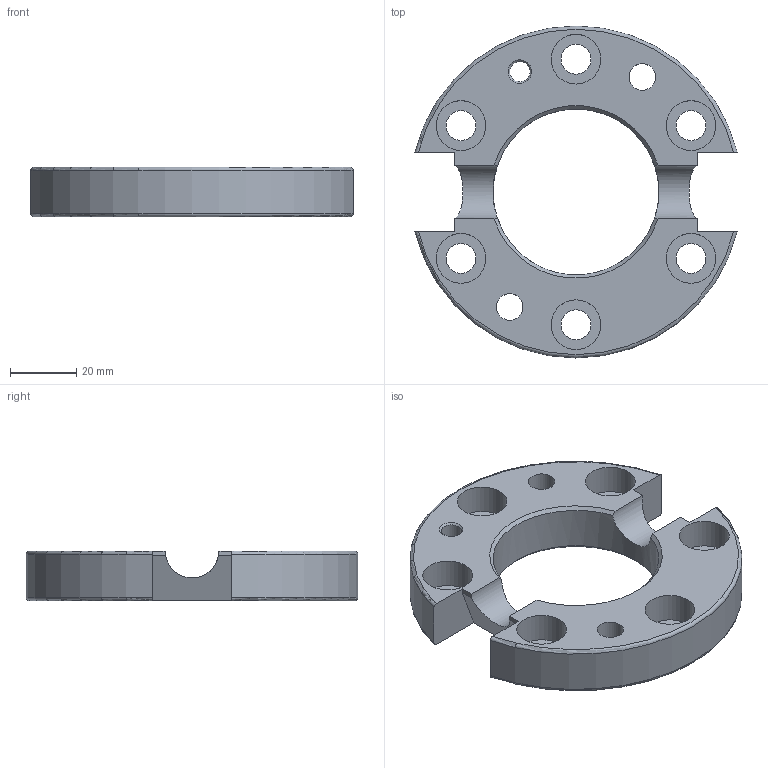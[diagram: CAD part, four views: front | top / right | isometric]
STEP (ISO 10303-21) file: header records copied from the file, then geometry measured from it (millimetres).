
FILE_DESCRIPTION(/* description */ ('G-SWA100-Unterteil'),/* implementation_level */ '2;1');
FILE_NAME(/* name */ '\\dc01\daten\CAD\Standard\Daten\3D-Datenbank\SWA\4 - 3D-CAD-Daten SWA 050-160\SWA100\step-Daten\G-SWA100-2U.stp',/* time_stamp */ '2020-01-29T16:24:35+01:00',/* author */ ('ysplieth'),/* organization */ ('GRIP GmbH'),/* preprocessor_version */ 'ST-DEVELOPER v17',/* originating_system */ 'Autodesk Inventor 2018',/* authorisation */ '');
FILE_SCHEMA (('AUTOMOTIVE_DESIGN { 1 0 10303 214 3 1 1 }'));
Length unit declared in the file: millimetre
Products named in the file (1): G-SWA100-5.1
Bounding box: 97.08 x 100 x 15 mm (x, y, z)
Volume: 61052.2 mm3; surface area: 21167.5 mm2
Topology: 1 solids, 1 shells, 48 faces, 135 edges, 94 vertices
Faces by surface type: cylinder 20, plane 19, cone 5, torus 4
Full cylindrical faces by diameter (mm): 6.1 x1, 8 x2, 9 x6, 15 x6, 50 x1
Entity records: 1770 total; most frequent: CARTESIAN_POINT 397, DIRECTION 285, ORIENTED_EDGE 270, EDGE_CURVE 135, AXIS2_PLACEMENT_3D 116, VERTEX_POINT 94, EDGE_LOOP 73, CIRCLE 65
